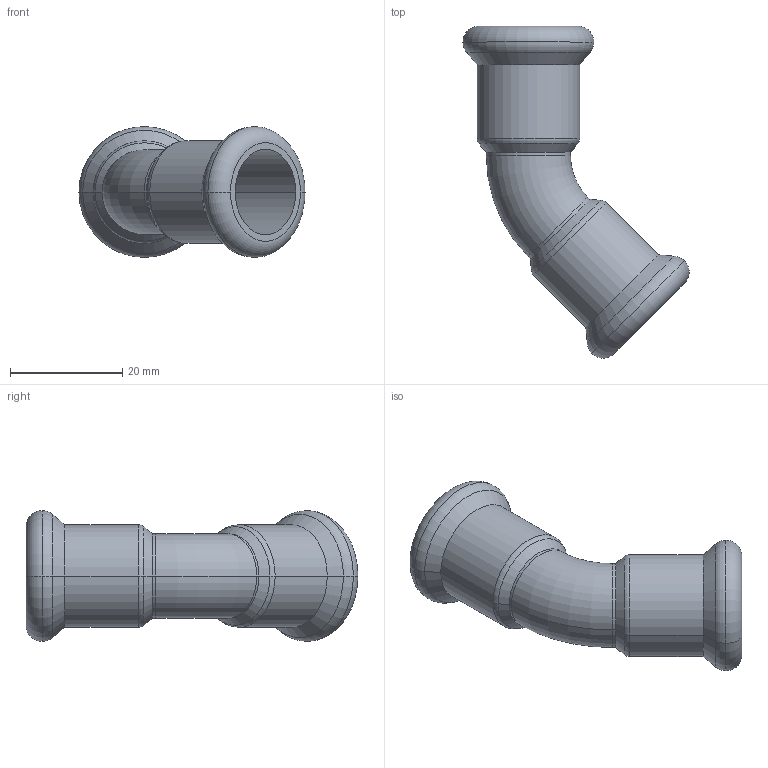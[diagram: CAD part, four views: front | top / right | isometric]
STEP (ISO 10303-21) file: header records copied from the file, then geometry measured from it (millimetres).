
FILE_DESCRIPTION(('OneSpaceDesigner STEP Export'),'2;1');
FILE_NAME('R2713 15x15.stp','2010-06-09T15:50:47',(''),(''),'OneSpace Designer STEP processor for AP214 (Solid Model)','OneSpace Modeling 15.00A 14-Mar-2007 (C) CoCreate Software GmbH','');
FILE_SCHEMA(('AUTOMOTIVE_DESIGN { 1 0 10303 214 1 1 1 1 }'));
Length unit declared in the file: millimetre
Products named in the file (2): R2713_15x15
Assembly tree (1 placements, depth 2):
  R2713_15x15
    R2713_15x15
Bounding box: 40.26 x 59.11 x 23.3 mm (x, y, z)
Volume: 5942.1 mm3; surface area: 7371.3 mm2
Topology: 1 solids, 1 shells, 122 faces, 301 edges, 191 vertices
Faces by surface type: plane 60, cylinder 38, torus 16, cone 8
Entity records: 3264 total; most frequent: ORIENTED_EDGE 602, CARTESIAN_POINT 531, DIRECTION 502, EDGE_CURVE 301, VERTEX_POINT 191, VECTOR 178, LINE 178, AXIS2_PLACEMENT_3D 162
